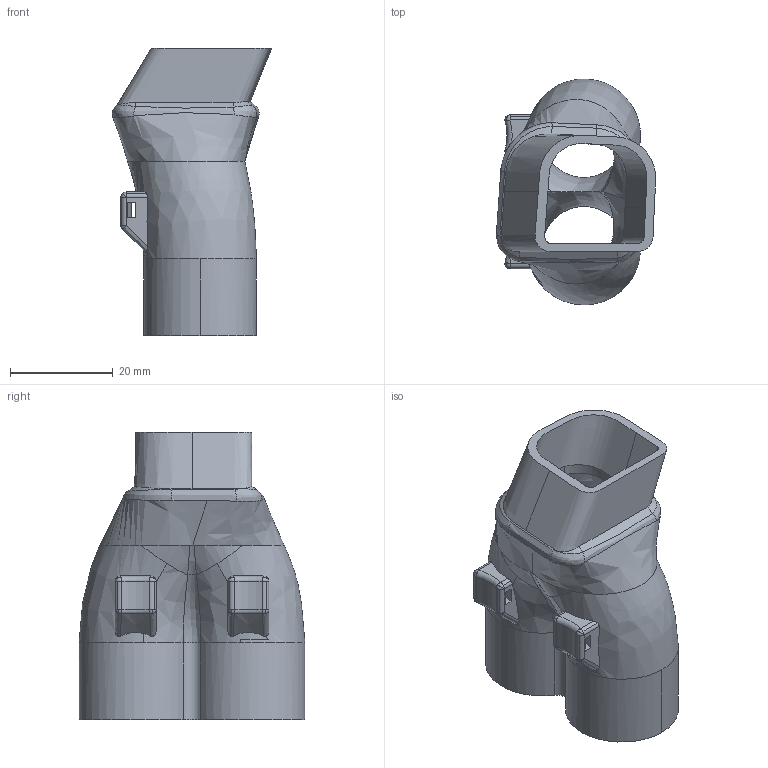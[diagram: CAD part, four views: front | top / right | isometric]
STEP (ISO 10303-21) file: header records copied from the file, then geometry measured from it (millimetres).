
FILE_DESCRIPTION (( 'STEP AP214' ), '1' );
FILE_NAME ('ïåðåõîäíèê ñÿîñîñà4.STEP', '2026-03-02T14:00:28', ( '' ), ( '' ), 'SwSTEP 2.0', 'SolidWorks 2025', '' );
FILE_SCHEMA (( 'AUTOMOTIVE_DESIGN' ));
Length unit declared in the file: millimetre
Products named in the file (1): переходник сяососа4
Bounding box: 31.04 x 44 x 56 mm (x, y, z)
Volume: 15082.4 mm3; surface area: 12524.8 mm2
Topology: 1 solids, 1 shells, 147 faces, 418 edges, 272 vertices
Faces by surface type: bspline 52, cylinder 40, sphere 16, plane 16, torus 12, cone 11
Entity records: 14651 total; most frequent: CARTESIAN_POINT 11329, ORIENTED_EDGE 836, DIRECTION 479, EDGE_CURVE 418, VERTEX_POINT 272, B_SPLINE_CURVE_WITH_KNOTS 236, AXIS2_PLACEMENT_3D 201, EDGE_LOOP 154
